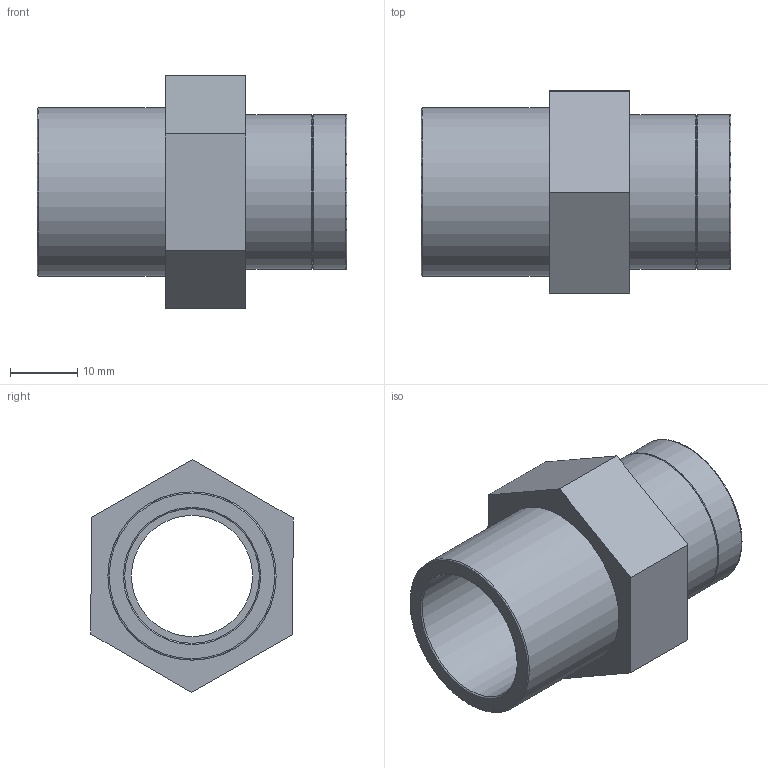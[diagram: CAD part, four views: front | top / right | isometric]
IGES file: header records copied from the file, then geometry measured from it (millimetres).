
Global section: file name: 057202025005.ipt; native system: Autodesk Inventor 2015; preprocessor: unknown; author: KIM; date: 20171207.165815; units: millimetre
Bounding box: 46 x 30.05 x 34.64 mm (x, y, z)
Volume: 11366.5 mm3; surface area: 7651.4 mm2
Topology: 1 solids, 1 shells, 24 faces, 61 edges, 43 vertices
Faces by surface type: plane 12, revolution 7, cylinder 3, cone 2
Full cylindrical faces by diameter (mm): 23 x2, 25 x1
